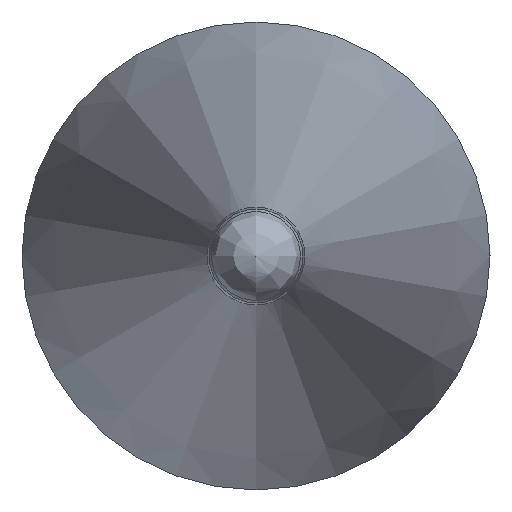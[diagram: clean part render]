
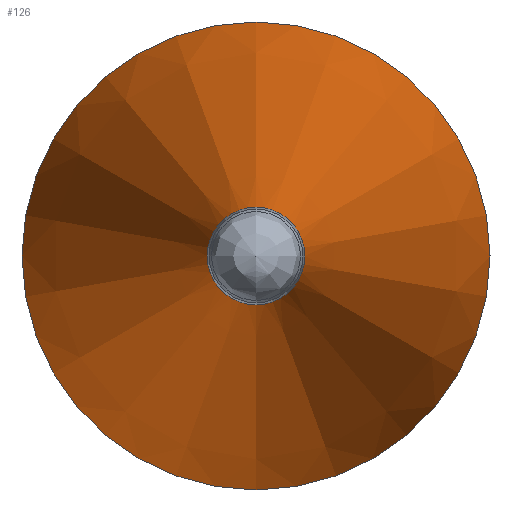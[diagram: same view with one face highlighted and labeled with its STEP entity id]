
A CAD part, left-side view. The second image highlights one B-rep face of the part: STEP entity #126.
In plain terms, the highlighted conical face has half-angle 12 degrees and reference radius 2 mm.
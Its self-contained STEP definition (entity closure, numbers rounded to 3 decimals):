
#94=CONICAL_SURFACE('',#206,2.,12.);
#112=FACE_BOUND('',#145,.T.);
#113=FACE_BOUND('',#146,.T.);
#126=ADVANCED_FACE('',(#112,#113),#94,.T.);
#145=EDGE_LOOP('',(#161));
#146=EDGE_LOOP('',(#162));
#161=ORIENTED_EDGE('',*,*,#181,.T.);
#162=ORIENTED_EDGE('',*,*,#182,.F.);
#173=VERTEX_POINT('',#292);
#174=VERTEX_POINT('',#295);
#181=EDGE_CURVE('',#173,#173,#189,.T.);
#182=EDGE_CURVE('',#174,#174,#190,.T.);
#189=CIRCLE('',#203,0.417);
#190=CIRCLE('',#205,2.);
#203=AXIS2_PLACEMENT_3D('',#291,#232,#233);
#205=AXIS2_PLACEMENT_3D('',#294,#236,#237);
#206=AXIS2_PLACEMENT_3D('',#296,#238,#239);
#232=DIRECTION('',(1.,0.,0.));
#233=DIRECTION('',(0.,0.,-1.));
#236=DIRECTION('',(1.,0.,0.));
#237=DIRECTION('',(0.,0.,-1.));
#238=DIRECTION('',(1.,0.,0.));
#239=DIRECTION('',(0.,0.,-1.));
#291=CARTESIAN_POINT('',(7899.912,6103.288,0.));
#292=CARTESIAN_POINT('',(7899.912,6103.288,-0.417));
#294=CARTESIAN_POINT('',(7907.359,6103.288,0.));
#295=CARTESIAN_POINT('',(7907.359,6103.288,-2.));
#296=CARTESIAN_POINT('',(7907.359,6103.288,0.));
